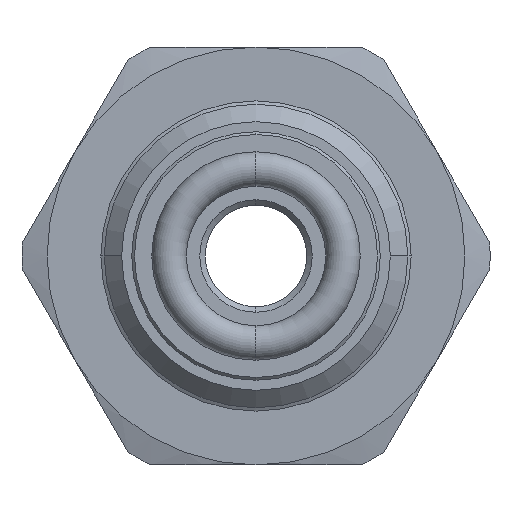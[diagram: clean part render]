
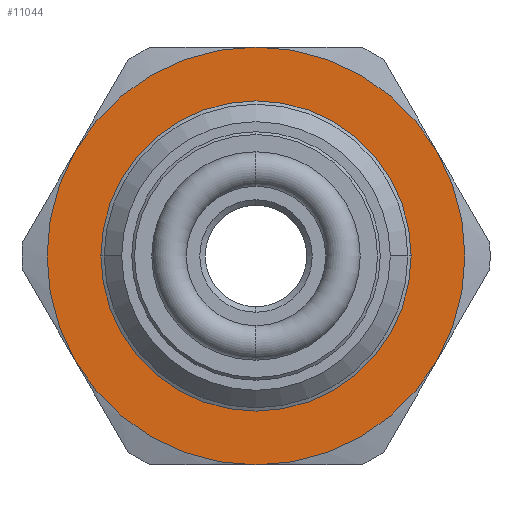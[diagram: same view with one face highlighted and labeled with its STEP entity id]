
A CAD part, left-side view. The second image highlights one B-rep face of the part: STEP entity #11044.
In plain terms, the highlighted planar face has unit normal (-1, 0, 0).
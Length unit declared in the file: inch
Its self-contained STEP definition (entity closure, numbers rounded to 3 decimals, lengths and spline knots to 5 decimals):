
#531 = CARTESIAN_POINT ( 'NONE',  ( 0.6175, 0., 0. ) ) ;
#543 = FACE_OUTER_BOUND ( 'NONE', #8943, .T. ) ;
#544 = FACE_BOUND ( 'NONE', #4662, .T. ) ;
#545 = PLANE ( 'NONE',  #1360 ) ;
#547 = DIRECTION ( 'NONE',  ( -1., 0., 0. ) ) ;
#548 = DIRECTION ( 'NONE',  ( 0., 0., 1. ) ) ;
#1360 = AXIS2_PLACEMENT_3D ( 'NONE', #531, #547, #548 ) ;
#1537 = CIRCLE ( 'NONE', #1540, 0.241 ) ;
#1539 = CIRCLE ( 'NONE', #1542, 0.375 ) ;
#1540 = AXIS2_PLACEMENT_3D ( 'NONE', #7651, #7652, #7653 ) ;
#1542 = AXIS2_PLACEMENT_3D ( 'NONE', #7654, #7655, #7656 ) ;
#1543 = CIRCLE ( 'NONE', #1547, 0.375 ) ;
#1544 = CIRCLE ( 'NONE', #1545, 0.375 ) ;
#1545 = AXIS2_PLACEMENT_3D ( 'NONE', #7657, #7658, #7659 ) ;
#1546 = CIRCLE ( 'NONE', #1549, 0.375 ) ;
#1547 = AXIS2_PLACEMENT_3D ( 'NONE', #7660, #7661, #7662 ) ;
#1548 = CIRCLE ( 'NONE', #1551, 0.375 ) ;
#1549 = AXIS2_PLACEMENT_3D ( 'NONE', #7663, #7664, #7665 ) ;
#1550 = CIRCLE ( 'NONE', #1553, 0.375 ) ;
#1551 = AXIS2_PLACEMENT_3D ( 'NONE', #7666, #7667, #7668 ) ;
#1553 = AXIS2_PLACEMENT_3D ( 'NONE', #7671, #7672, #7673 ) ;
#1652 = CARTESIAN_POINT ( 'NONE',  ( 0.6175, 0., 0.375 ) ) ;
#2231 = CARTESIAN_POINT ( 'NONE',  ( 0.6175, 0.32476, 0.1875 ) ) ;
#2272 = CARTESIAN_POINT ( 'NONE',  ( 0.6175, 0., 0.241 ) ) ;
#2792 = VERTEX_POINT ( 'NONE', #1652 ) ;
#2872 = VERTEX_POINT ( 'NONE', #3563 ) ;
#2978 = VERTEX_POINT ( 'NONE', #3669 ) ;
#2982 = VERTEX_POINT ( 'NONE', #3673 ) ;
#3020 = VERTEX_POINT ( 'NONE', #3711 ) ;
#3023 = VERTEX_POINT ( 'NONE', #3714 ) ;
#3331 = EDGE_CURVE ( 'NONE', #4263, #2982, #6689, .T. ) ;
#3563 = CARTESIAN_POINT ( 'NONE',  ( 0.6175, 0.32476, -0.1875 ) ) ;
#3669 = CARTESIAN_POINT ( 'NONE',  ( 0.6175, -0.32476, 0.1875 ) ) ;
#3673 = CARTESIAN_POINT ( 'NONE',  ( 0.6175, 0., -0.241 ) ) ;
#3711 = CARTESIAN_POINT ( 'NONE',  ( 0.6175, 0., -0.375 ) ) ;
#3714 = CARTESIAN_POINT ( 'NONE',  ( 0.6175, -0.32476, -0.1875 ) ) ;
#4222 = VERTEX_POINT ( 'NONE', #2231 ) ;
#4263 = VERTEX_POINT ( 'NONE', #2272 ) ;
#4566 = ORIENTED_EDGE ( 'NONE', *, *, #9892, .T. ) ;
#4567 = ORIENTED_EDGE ( 'NONE', *, *, #9893, .T. ) ;
#4568 = ORIENTED_EDGE ( 'NONE', *, *, #9894, .T. ) ;
#4569 = ORIENTED_EDGE ( 'NONE', *, *, #9895, .T. ) ;
#4570 = ORIENTED_EDGE ( 'NONE', *, *, #9896, .T. ) ;
#4571 = ORIENTED_EDGE ( 'NONE', *, *, #9897, .T. ) ;
#4572 = ORIENTED_EDGE ( 'NONE', *, *, #9891, .F. ) ;
#4573 = ORIENTED_EDGE ( 'NONE', *, *, #3331, .F. ) ;
#4662 = EDGE_LOOP ( 'NONE', ( #4572, #4573 ) ) ;
#6689 = CIRCLE ( 'NONE', #6693, 0.241 ) ;
#6693 = AXIS2_PLACEMENT_3D ( 'NONE', #10567, #10568, #10569 ) ;
#7651 = CARTESIAN_POINT ( 'NONE',  ( 0.6175, 0., 0. ) ) ;
#7652 = DIRECTION ( 'NONE',  ( -1., 0., 0. ) ) ;
#7653 = DIRECTION ( 'NONE',  ( 0., 0., 1. ) ) ;
#7654 = CARTESIAN_POINT ( 'NONE',  ( 0.6175, 0., 0. ) ) ;
#7655 = DIRECTION ( 'NONE',  ( -1., 0., 0. ) ) ;
#7656 = DIRECTION ( 'NONE',  ( 0., 0., 1. ) ) ;
#7657 = CARTESIAN_POINT ( 'NONE',  ( 0.6175, 0., 0. ) ) ;
#7658 = DIRECTION ( 'NONE',  ( -1., 0., 0. ) ) ;
#7659 = DIRECTION ( 'NONE',  ( 0., 0., 1. ) ) ;
#7660 = CARTESIAN_POINT ( 'NONE',  ( 0.6175, 0., 0. ) ) ;
#7661 = DIRECTION ( 'NONE',  ( -1., 0., 0. ) ) ;
#7662 = DIRECTION ( 'NONE',  ( 0., 0., 1. ) ) ;
#7663 = CARTESIAN_POINT ( 'NONE',  ( 0.6175, 0., 0. ) ) ;
#7664 = DIRECTION ( 'NONE',  ( -1., 0., 0. ) ) ;
#7665 = DIRECTION ( 'NONE',  ( 0., 0., 1. ) ) ;
#7666 = CARTESIAN_POINT ( 'NONE',  ( 0.6175, 0., 0. ) ) ;
#7667 = DIRECTION ( 'NONE',  ( -1., 0., 0. ) ) ;
#7668 = DIRECTION ( 'NONE',  ( 0., 0., 1. ) ) ;
#7671 = CARTESIAN_POINT ( 'NONE',  ( 0.6175, 0., 0. ) ) ;
#7672 = DIRECTION ( 'NONE',  ( -1., 0., 0. ) ) ;
#7673 = DIRECTION ( 'NONE',  ( 0., 0., 1. ) ) ;
#8943 = EDGE_LOOP ( 'NONE', ( #4566, #4567, #4568, #4569, #4570, #4571 ) ) ;
#9891 = EDGE_CURVE ( 'NONE', #2982, #4263, #1537, .T. ) ;
#9892 = EDGE_CURVE ( 'NONE', #3023, #2978, #1539, .T. ) ;
#9893 = EDGE_CURVE ( 'NONE', #2978, #2792, #1544, .T. ) ;
#9894 = EDGE_CURVE ( 'NONE', #2792, #4222, #1543, .T. ) ;
#9895 = EDGE_CURVE ( 'NONE', #4222, #2872, #1546, .T. ) ;
#9896 = EDGE_CURVE ( 'NONE', #2872, #3020, #1548, .T. ) ;
#9897 = EDGE_CURVE ( 'NONE', #3020, #3023, #1550, .T. ) ;
#10567 = CARTESIAN_POINT ( 'NONE',  ( 0.6175, 0., 0. ) ) ;
#10568 = DIRECTION ( 'NONE',  ( -1., 0., 0. ) ) ;
#10569 = DIRECTION ( 'NONE',  ( 0., 0., 1. ) ) ;
#11044 = ADVANCED_FACE ( 'NONE', ( #543, #544 ), #545, .T. ) ;
